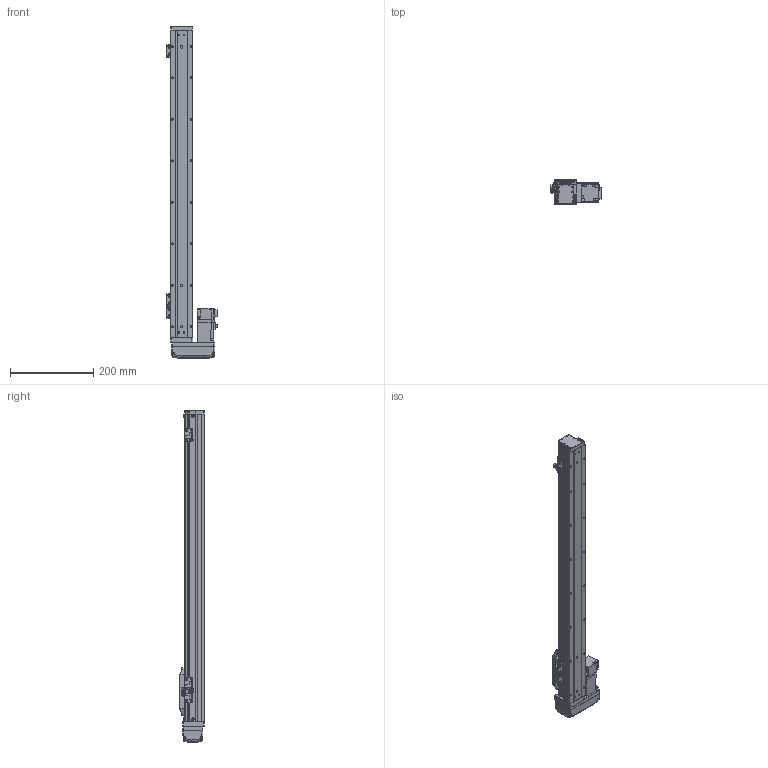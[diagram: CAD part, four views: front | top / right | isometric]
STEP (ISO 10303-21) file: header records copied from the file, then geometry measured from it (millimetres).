
FILE_DESCRIPTION (( 'STEP AP203' ), '1' );
FILE_NAME ('GTH5-600-BR-M10-C4.step', '2022-09-23T00:51:42', ( '微软用户' ), ( '微软中国' ), 'SwSTEP 2.0', 'SolidWorks 2020', '' );
FILE_SCHEMA (( 'CONFIG_CONTROL_DESIGN' ));
Length unit declared in the file: millimetre
Products named in the file (19): GTH50-028; GTH50-013; GTH50-004; GTH50-022-1; GTH50-023; GBT 70.3-M3℅6; HG-KR13; GBT 70.1-M3℅6; BTH-M3X5X6; GTH50-027-1_BTHA50-027-2; GBT96.1-2002 3×0.8; GTH50-001_600; GTH50-026; GTH50-024; GBT 70.1-M4×16; GTH5-600-BR-M10-C4; GBT 70.1-M2.5×6; GTH50-003; GTH50-006
Assembly tree (57 placements, depth 2):
  GTH5-600-BR-M10-C4
    GTH50-006
    GTH50-004
    GBT 70.3-M3℅6  x4
    BTH-M3X5X6  x8
    GTH50-001_600
    GBT 70.1-M4×16  x8
    GTH50-003
    GTH50-013
    GTH50-023  x3
    GBT 70.1-M3℅6  x12
    GBT96.1-2002 3×0.8  x6
    GTH50-024  x3
    GBT 70.1-M2.5×6  x2
    GTH50-028  x2
    GTH50-022-1
    HG-KR13
    GTH50-027-1_BTHA50-027-2
    GTH50-026
Bounding box: 123.6 x 60 x 800 mm (x, y, z)
Volume: 1817022.2 mm3; surface area: 304600.4 mm2
Topology: 59 solids, 59 shells, 2160 faces, 5016 edges, 3076 vertices
Faces by surface type: plane 1142, cylinder 589, cone 219, torus 162, bspline 40, sphere 8
Entity records: 40160 total; most frequent: CARTESIAN_POINT 7947, DIRECTION 6185, ORIENTED_EDGE 5946, EDGE_CURVE 2973, AXIS2_PLACEMENT_3D 2152, VECTOR 1881, LINE 1881, VERTEX_POINT 1878
